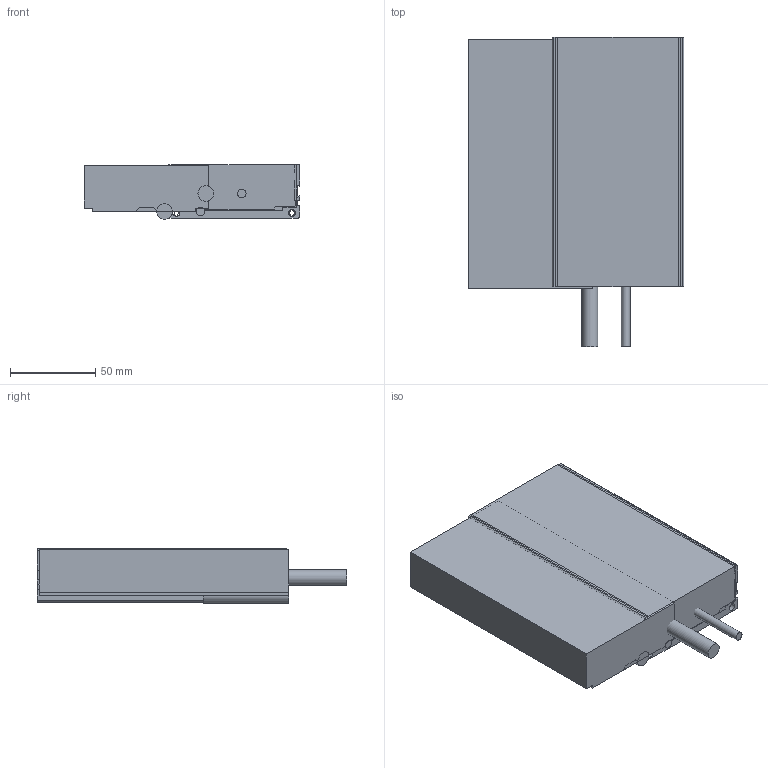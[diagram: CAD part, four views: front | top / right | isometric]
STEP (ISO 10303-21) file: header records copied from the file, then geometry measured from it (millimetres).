
FILE_DESCRIPTION( ( 'Unknown' ), '1' );
FILE_NAME( 'ML1106_01.stp', 'Unknown', ( 'Unknown' ), ( 'Unknown' ), 'XStep 1.0', 'Unknown', ' ' );
FILE_SCHEMA( ( 'CONFIG_CONTROL_DESIGN' ) );
Length unit declared in the file: millimetre
Products named in the file (6): Assem1; 4022 362 72863; GietharsTL 6; Kabels; 4022 362 73233
Bounding box: 126.18 x 181 x 32.07 mm (x, y, z)
Volume: 718844.7 mm3; surface area: 177585.8 mm2
Topology: 11 solids, 11 shells, 596 faces, 1720 edges, 1146 vertices
Faces by surface type: plane 470, cylinder 126
Full cylindrical faces by diameter (mm): 2.5 x8, 4.2 x10, 5 x6, 9.2 x2
Entity records: 9421 total; most frequent: CARTESIAN_POINT 1619, ORIENTED_EDGE 1588, DIRECTION 1516, EDGE_CURVE 794, LINE 654, VECTOR 654, VERTEX_POINT 534, AXIS2_PLACEMENT_3D 431
